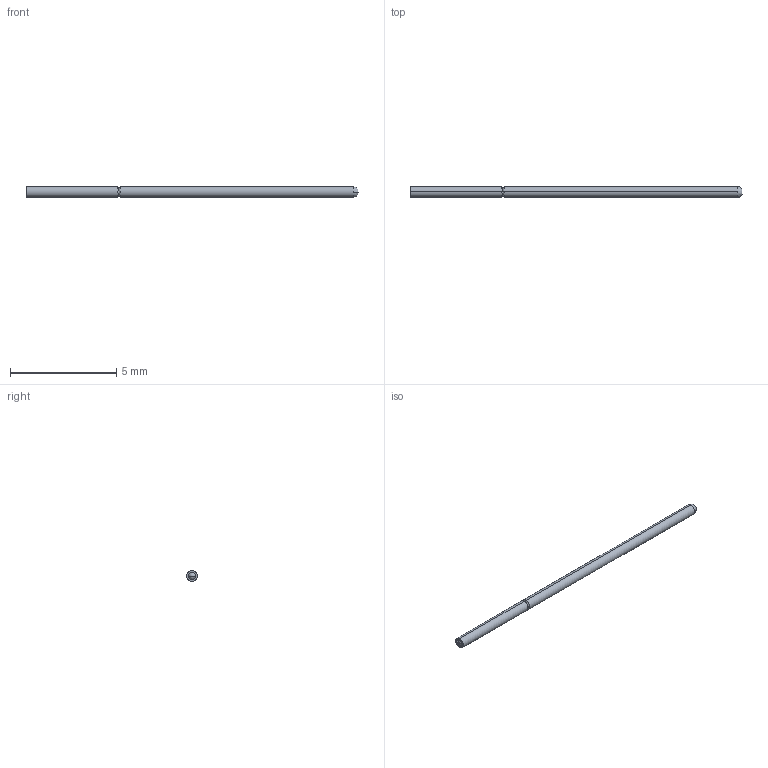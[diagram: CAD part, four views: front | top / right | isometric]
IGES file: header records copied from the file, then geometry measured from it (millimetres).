
Start section: SolidWorks IGES file using analytic representation for surfaces
Global section: file name: Z:\probe solid model mockups\Solidworks models\MEP-30 IGS files\MEP-30J Full.IGS; native system: SolidWorks 2006 by SolidWorks Corporation; preprocessor: SolidWorks 2006 by SolidWorks Corporation; author: tsakatani; date: 071219.101509; units: inch
Bounding box: 15.62 x 0.51 x 0.51 mm (x, y, z)
Surface area: 25.5 mm2 (no closed solid volume)
Topology: 0 solids, 0 shells, 16 faces, 112 edges, 110 vertices
Faces by surface type: revolution 10, bspline 6
